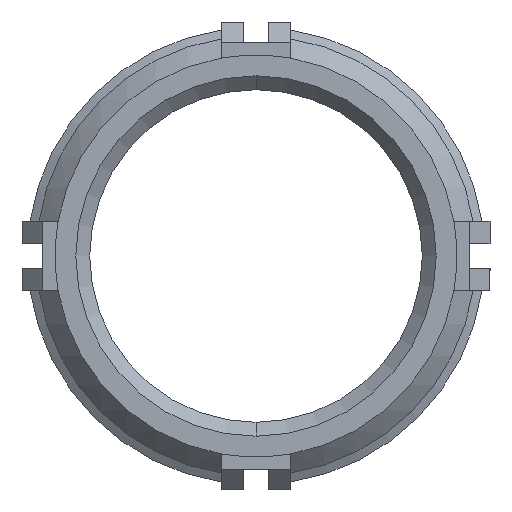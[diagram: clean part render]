
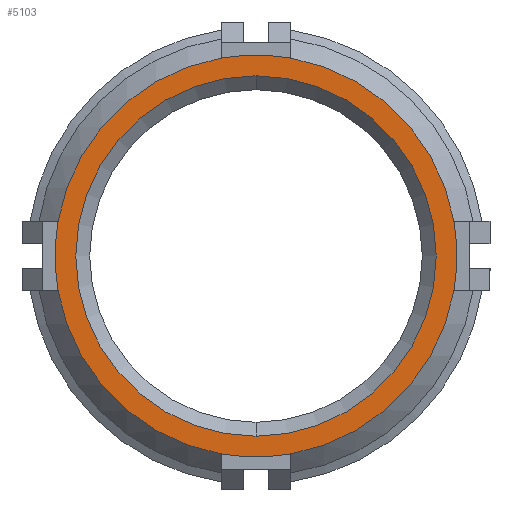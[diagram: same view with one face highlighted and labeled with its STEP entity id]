
A CAD part, front view. The second image highlights one B-rep face of the part: STEP entity #5103.
In plain terms, the highlighted planar face has unit normal (0, -1, 0).
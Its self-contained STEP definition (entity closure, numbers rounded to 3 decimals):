
#4 = AXIS2_PLACEMENT_3D ( 'NONE', #4873, #6775, #2321 ) ;
#29 = VERTEX_POINT ( 'NONE', #4899 ) ;
#121 = ORIENTED_EDGE ( 'NONE', *, *, #547, .T. ) ;
#135 = ORIENTED_EDGE ( 'NONE', *, *, #6870, .T. ) ;
#175 = DIRECTION ( 'NONE',  ( 0., 1., 0. ) ) ;
#405 = AXIS2_PLACEMENT_3D ( 'NONE', #6656, #5354, #4743 ) ;
#498 = DIRECTION ( 'NONE',  ( 0., -1., 0. ) ) ;
#547 = EDGE_CURVE ( 'NONE', #29, #5735, #3436, .T. ) ;
#562 = VERTEX_POINT ( 'NONE', #7390 ) ;
#772 = ORIENTED_EDGE ( 'NONE', *, *, #7002, .T. ) ;
#905 = EDGE_CURVE ( 'NONE', #5735, #2083, #4223, .T. ) ;
#910 = VERTEX_POINT ( 'NONE', #7944 ) ;
#1129 = CARTESIAN_POINT ( 'NONE',  ( 0., -33., -13. ) ) ;
#1140 = CIRCLE ( 'NONE', #2604, 14.5 ) ;
#1153 = CARTESIAN_POINT ( 'NONE',  ( 0., -33., 0. ) ) ;
#1362 = CIRCLE ( 'NONE', #2377, 14.5 ) ;
#1404 = ORIENTED_EDGE ( 'NONE', *, *, #1526, .T. ) ;
#1526 = EDGE_CURVE ( 'NONE', #910, #5805, #1362, .T. ) ;
#1562 = PLANE ( 'NONE',  #5917 ) ;
#1597 = CARTESIAN_POINT ( 'NONE',  ( 14.283, -33., -2.5 ) ) ;
#1657 = ORIENTED_EDGE ( 'NONE', *, *, #2453, .T. ) ;
#1688 = DIRECTION ( 'NONE',  ( 0., -1., 0. ) ) ;
#1766 = AXIS2_PLACEMENT_3D ( 'NONE', #6648, #4167, #5400 ) ;
#1950 = CARTESIAN_POINT ( 'NONE',  ( 0., -33., 0. ) ) ;
#1971 = VERTEX_POINT ( 'NONE', #1597 ) ;
#2083 = VERTEX_POINT ( 'NONE', #5578 ) ;
#2094 = CIRCLE ( 'NONE', #2718, 14.5 ) ;
#2120 = EDGE_CURVE ( 'NONE', #3042, #6920, #4782, .T. ) ;
#2141 = DIRECTION ( 'NONE',  ( 0., -1., 0. ) ) ;
#2193 = EDGE_LOOP ( 'NONE', ( #135, #1404, #3410, #7853, #772, #1657, #121, #6180 ) ) ;
#2291 = ORIENTED_EDGE ( 'NONE', *, *, #2882, .T. ) ;
#2321 = DIRECTION ( 'NONE',  ( 0., 0., 1. ) ) ;
#2377 = AXIS2_PLACEMENT_3D ( 'NONE', #7114, #7895, #4151 ) ;
#2453 = EDGE_CURVE ( 'NONE', #562, #29, #7636, .T. ) ;
#2604 = AXIS2_PLACEMENT_3D ( 'NONE', #3609, #1688, #5504 ) ;
#2664 = DIRECTION ( 'NONE',  ( 0., -1., 0. ) ) ;
#2718 = AXIS2_PLACEMENT_3D ( 'NONE', #6435, #2664, #7068 ) ;
#2882 = EDGE_CURVE ( 'NONE', #6920, #3042, #4110, .T. ) ;
#2907 = AXIS2_PLACEMENT_3D ( 'NONE', #1153, #3005, #3030 ) ;
#2909 = CIRCLE ( 'NONE', #7757, 14.5 ) ;
#2940 = CARTESIAN_POINT ( 'NONE',  ( 0., -33., 0. ) ) ;
#3005 = DIRECTION ( 'NONE',  ( 0., -1., 0. ) ) ;
#3030 = DIRECTION ( 'NONE',  ( 1., 0., 0. ) ) ;
#3042 = VERTEX_POINT ( 'NONE', #5033 ) ;
#3171 = CARTESIAN_POINT ( 'NONE',  ( -2.5, -33., -14.283 ) ) ;
#3406 = CARTESIAN_POINT ( 'NONE',  ( 2.5, -33., -14.283 ) ) ;
#3410 = ORIENTED_EDGE ( 'NONE', *, *, #7168, .T. ) ;
#3436 = CIRCLE ( 'NONE', #2907, 14.5 ) ;
#3526 = CARTESIAN_POINT ( 'NONE',  ( 0., -33., 0. ) ) ;
#3609 = CARTESIAN_POINT ( 'NONE',  ( 0., -33., 0. ) ) ;
#3870 = DIRECTION ( 'NONE',  ( 0., 0., 1. ) ) ;
#4050 = ORIENTED_EDGE ( 'NONE', *, *, #2120, .T. ) ;
#4086 = FACE_BOUND ( 'NONE', #7548, .T. ) ;
#4110 = CIRCLE ( 'NONE', #4, 13. ) ;
#4151 = DIRECTION ( 'NONE',  ( 0., 0., 1. ) ) ;
#4167 = DIRECTION ( 'NONE',  ( 0., -1., 0. ) ) ;
#4223 = CIRCLE ( 'NONE', #405, 14.5 ) ;
#4267 = EDGE_CURVE ( 'NONE', #5509, #1971, #2909, .T. ) ;
#4553 = AXIS2_PLACEMENT_3D ( 'NONE', #1950, #2141, #5922 ) ;
#4743 = DIRECTION ( 'NONE',  ( 0., 0., 1. ) ) ;
#4778 = DIRECTION ( 'NONE',  ( 0., 0., 1. ) ) ;
#4782 = CIRCLE ( 'NONE', #5904, 13. ) ;
#4846 = FACE_OUTER_BOUND ( 'NONE', #2193, .T. ) ;
#4873 = CARTESIAN_POINT ( 'NONE',  ( 0., -33., 0. ) ) ;
#4899 = CARTESIAN_POINT ( 'NONE',  ( 2.5, -33., 14.283 ) ) ;
#5033 = CARTESIAN_POINT ( 'NONE',  ( 0., -33., 13. ) ) ;
#5103 = ADVANCED_FACE ( 'NONE', ( #4086, #4846 ), #1562, .F. ) ;
#5354 = DIRECTION ( 'NONE',  ( 0., -1., 0. ) ) ;
#5400 = DIRECTION ( 'NONE',  ( 0., 0., 1. ) ) ;
#5504 = DIRECTION ( 'NONE',  ( 0., 0., -1. ) ) ;
#5509 = VERTEX_POINT ( 'NONE', #3406 ) ;
#5578 = CARTESIAN_POINT ( 'NONE',  ( -14.283, -33., 2.5 ) ) ;
#5735 = VERTEX_POINT ( 'NONE', #6178 ) ;
#5805 = VERTEX_POINT ( 'NONE', #3171 ) ;
#5904 = AXIS2_PLACEMENT_3D ( 'NONE', #7033, #175, #3870 ) ;
#5917 = AXIS2_PLACEMENT_3D ( 'NONE', #2940, #7922, #6605 ) ;
#5922 = DIRECTION ( 'NONE',  ( 0., 0., 1. ) ) ;
#6114 = CIRCLE ( 'NONE', #1766, 14.5 ) ;
#6178 = CARTESIAN_POINT ( 'NONE',  ( -2.5, -33., 14.283 ) ) ;
#6180 = ORIENTED_EDGE ( 'NONE', *, *, #905, .T. ) ;
#6435 = CARTESIAN_POINT ( 'NONE',  ( 0., -33., 0. ) ) ;
#6605 = DIRECTION ( 'NONE',  ( 0., 0., 1. ) ) ;
#6648 = CARTESIAN_POINT ( 'NONE',  ( 0., -33., 0. ) ) ;
#6656 = CARTESIAN_POINT ( 'NONE',  ( 0., -33., 0. ) ) ;
#6775 = DIRECTION ( 'NONE',  ( 0., 1., 0. ) ) ;
#6870 = EDGE_CURVE ( 'NONE', #2083, #910, #6114, .T. ) ;
#6920 = VERTEX_POINT ( 'NONE', #1129 ) ;
#7002 = EDGE_CURVE ( 'NONE', #1971, #562, #1140, .T. ) ;
#7033 = CARTESIAN_POINT ( 'NONE',  ( 0., -33., 0. ) ) ;
#7068 = DIRECTION ( 'NONE',  ( -1., 0., 0. ) ) ;
#7114 = CARTESIAN_POINT ( 'NONE',  ( 0., -33., 0. ) ) ;
#7168 = EDGE_CURVE ( 'NONE', #5805, #5509, #2094, .T. ) ;
#7390 = CARTESIAN_POINT ( 'NONE',  ( 14.283, -33., 2.5 ) ) ;
#7548 = EDGE_LOOP ( 'NONE', ( #2291, #4050 ) ) ;
#7636 = CIRCLE ( 'NONE', #4553, 14.5 ) ;
#7757 = AXIS2_PLACEMENT_3D ( 'NONE', #3526, #498, #4778 ) ;
#7853 = ORIENTED_EDGE ( 'NONE', *, *, #4267, .T. ) ;
#7895 = DIRECTION ( 'NONE',  ( 0., -1., 0. ) ) ;
#7922 = DIRECTION ( 'NONE',  ( 0., 1., 0. ) ) ;
#7944 = CARTESIAN_POINT ( 'NONE',  ( -14.283, -33., -2.5 ) ) ;
